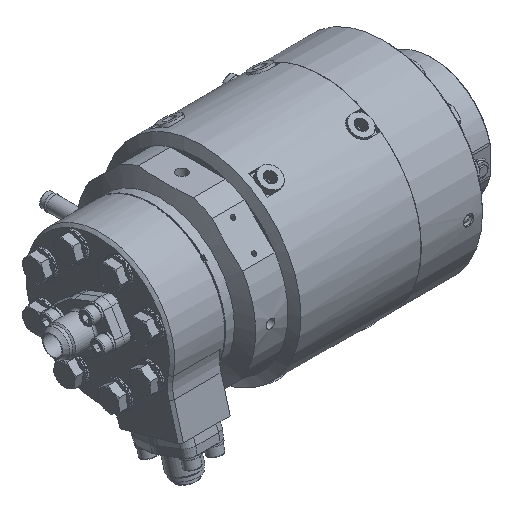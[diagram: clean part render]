
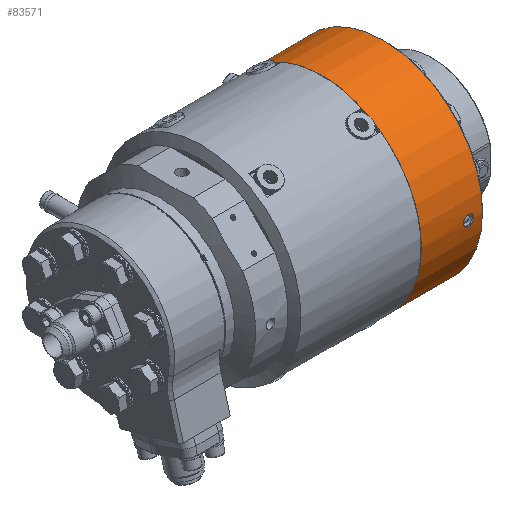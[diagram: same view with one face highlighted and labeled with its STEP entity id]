
A CAD part, isometric view. The second image highlights one B-rep face of the part: STEP entity #83571.
In plain terms, the highlighted cylindrical face has radius 114 mm (diameter 228 mm), a full revolution.
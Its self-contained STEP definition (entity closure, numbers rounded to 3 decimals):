
#1836=CYLINDRICAL_SURFACE('',#89291,114.);
#5854=B_SPLINE_CURVE_WITH_KNOTS('',3,(#135552,#135553,#135554,#135555,#135556,
#135557,#135558,#135559,#135560,#135561,#135562,#135563,#135564,#135565,
#135566,#135567,#135568,#135569),.UNSPECIFIED.,.F.,.F.,(4,2,2,2,2,2,2,2,
4),(0.904,1.13,1.356,1.582,
1.808,2.035,2.261,2.487,2.713),
 .UNSPECIFIED.);
#5855=B_SPLINE_CURVE_WITH_KNOTS('',3,(#135574,#135575,#135576,#135577,#135578,
#135579,#135580,#135581,#135582,#135583),.UNSPECIFIED.,.F.,.F.,(4,2,2,2,
4),(2.713,2.939,3.165,3.391,
3.617),.UNSPECIFIED.);
#5856=B_SPLINE_CURVE_WITH_KNOTS('',3,(#135584,#135585,#135586,#135587,#135588,
#135589,#135590,#135591,#135592,#135593),.UNSPECIFIED.,.F.,.F.,(4,2,2,2,
4),(0.,0.226,0.452,0.678,0.904),
 .UNSPECIFIED.);
#8642=FACE_OUTER_BOUND('',#13132,.T.);
#13132=EDGE_LOOP('',(#67199,#67200,#67201,#67202,#67203,#67204,#67205,#67206,
#67207,#67208,#67209,#67210,#67211));
#20191=LINE('',#135529,#28485);
#20193=LINE('',#135532,#28487);
#20200=LINE('',#135550,#28494);
#20201=LINE('',#135571,#28495);
#28485=VECTOR('',#105242,10.);
#28487=VECTOR('',#105244,10.);
#28494=VECTOR('',#105259,114.);
#28495=VECTOR('',#105260,114.);
#32548=CIRCLE('',#89284,114.);
#32549=CIRCLE('',#89285,114.);
#32551=CIRCLE('',#89290,114.);
#32552=CIRCLE('',#89292,114.);
#38131=VERTEX_POINT('',#135515);
#38132=VERTEX_POINT('',#135519);
#38133=VERTEX_POINT('',#135521);
#38134=VERTEX_POINT('',#135528);
#38135=VERTEX_POINT('',#135530);
#38142=VERTEX_POINT('',#135549);
#38143=VERTEX_POINT('',#135551);
#38144=VERTEX_POINT('',#135570);
#38145=VERTEX_POINT('',#135573);
#48286=EDGE_CURVE('',#38131,#38132,#32548,.T.);
#48287=EDGE_CURVE('',#38132,#38133,#32549,.T.);
#48290=EDGE_CURVE('',#38134,#38133,#20191,.T.);
#48292=EDGE_CURVE('',#38131,#38135,#20193,.T.);
#48299=EDGE_CURVE('',#38135,#38134,#32551,.T.);
#48300=EDGE_CURVE('',#38132,#38142,#20200,.T.);
#48301=EDGE_CURVE('',#38142,#38143,#5854,.T.);
#48302=EDGE_CURVE('',#38143,#38144,#20201,.T.);
#48303=EDGE_CURVE('',#38144,#38144,#32552,.T.);
#48304=EDGE_CURVE('',#38143,#38145,#5855,.T.);
#48305=EDGE_CURVE('',#38145,#38142,#5856,.T.);
#67199=ORIENTED_EDGE('',*,*,#48286,.F.);
#67200=ORIENTED_EDGE('',*,*,#48292,.T.);
#67201=ORIENTED_EDGE('',*,*,#48299,.T.);
#67202=ORIENTED_EDGE('',*,*,#48290,.T.);
#67203=ORIENTED_EDGE('',*,*,#48287,.F.);
#67204=ORIENTED_EDGE('',*,*,#48300,.T.);
#67205=ORIENTED_EDGE('',*,*,#48301,.T.);
#67206=ORIENTED_EDGE('',*,*,#48302,.T.);
#67207=ORIENTED_EDGE('',*,*,#48303,.T.);
#67208=ORIENTED_EDGE('',*,*,#48302,.F.);
#67209=ORIENTED_EDGE('',*,*,#48304,.T.);
#67210=ORIENTED_EDGE('',*,*,#48305,.T.);
#67211=ORIENTED_EDGE('',*,*,#48300,.F.);
#83571=ADVANCED_FACE('',(#8642),#1836,.T.);
#89284=AXIS2_PLACEMENT_3D('',#135520,#105234,#105235);
#89285=AXIS2_PLACEMENT_3D('',#135522,#105236,#105237);
#89290=AXIS2_PLACEMENT_3D('',#135547,#105255,#105256);
#89291=AXIS2_PLACEMENT_3D('',#135548,#105257,#105258);
#89292=AXIS2_PLACEMENT_3D('',#135572,#105261,#105262);
#105234=DIRECTION('center_axis',(1.,0.,0.));
#105235=DIRECTION('ref_axis',(0.,-1.,0.));
#105236=DIRECTION('center_axis',(1.,0.,0.));
#105237=DIRECTION('ref_axis',(0.,-1.,0.));
#105242=DIRECTION('',(1.,0.,0.));
#105244=DIRECTION('',(-1.,0.,0.));
#105255=DIRECTION('center_axis',(-1.,0.,0.));
#105256=DIRECTION('ref_axis',(0.,1.,0.));
#105257=DIRECTION('center_axis',(1.,0.,0.));
#105258=DIRECTION('ref_axis',(0.,1.,0.));
#105259=DIRECTION('',(-1.,0.,0.));
#105260=DIRECTION('',(-1.,0.,0.));
#105261=DIRECTION('center_axis',(1.,0.,0.));
#105262=DIRECTION('ref_axis',(0.,0.,
-1.));
#135515=CARTESIAN_POINT('',(265.3,112.,21.26));
#135519=CARTESIAN_POINT('',(265.3,-114.,0.));
#135520=CARTESIAN_POINT('Origin',(265.3,0.,0.));
#135521=CARTESIAN_POINT('',(265.3,112.,-21.26));
#135522=CARTESIAN_POINT('Origin',(265.3,0.,0.));
#135528=CARTESIAN_POINT('',(231.3,112.,-21.26));
#135529=CARTESIAN_POINT('',(231.3,112.,-21.26));
#135530=CARTESIAN_POINT('',(231.3,112.,21.26));
#135532=CARTESIAN_POINT('',(231.3,112.,21.26));
#135547=CARTESIAN_POINT('Origin',(231.3,0.,0.));
#135548=CARTESIAN_POINT('Origin',(231.3,0.,0.));
#135549=CARTESIAN_POINT('',(255.3,-114.,0.));
#135550=CARTESIAN_POINT('',(231.3,-114.,0.));
#135551=CARTESIAN_POINT('',(243.3,-114.,0.));
#135552=CARTESIAN_POINT('Ctrl Pts',(255.3,-114.,0.));
#135553=CARTESIAN_POINT('Ctrl Pts',(255.3,-114.,-0.754));
#135554=CARTESIAN_POINT('Ctrl Pts',(255.149,-113.992,
-1.557));
#135555=CARTESIAN_POINT('Ctrl Pts',(254.537,-113.962,
-3.035));
#135556=CARTESIAN_POINT('Ctrl Pts',(254.075,-113.941,
-3.71));
#135557=CARTESIAN_POINT('Ctrl Pts',(253.01,-113.901,
-4.775));
#135558=CARTESIAN_POINT('Ctrl Pts',(252.335,-113.88,-5.237));
#135559=CARTESIAN_POINT('Ctrl Pts',(250.857,-113.85,
-5.849));
#135560=CARTESIAN_POINT('Ctrl Pts',(250.054,-113.842,
-6.));
#135561=CARTESIAN_POINT('Ctrl Pts',(248.546,-113.842,
-6.));
#135562=CARTESIAN_POINT('Ctrl Pts',(247.743,-113.85,
-5.849));
#135563=CARTESIAN_POINT('Ctrl Pts',(246.265,-113.88,-5.237));
#135564=CARTESIAN_POINT('Ctrl Pts',(245.59,-113.901,
-4.775));
#135565=CARTESIAN_POINT('Ctrl Pts',(244.525,-113.941,
-3.71));
#135566=CARTESIAN_POINT('Ctrl Pts',(244.063,-113.962,
-3.035));
#135567=CARTESIAN_POINT('Ctrl Pts',(243.451,-113.992,-1.557));
#135568=CARTESIAN_POINT('Ctrl Pts',(243.3,-114.,-0.754));
#135569=CARTESIAN_POINT('Ctrl Pts',(243.3,-114.,0.));
#135570=CARTESIAN_POINT('',(195.3,-114.,0.));
#135571=CARTESIAN_POINT('',(231.3,-114.,0.));
#135572=CARTESIAN_POINT('Origin',(195.3,0.,0.));
#135573=CARTESIAN_POINT('',(249.3,-113.842,6.));
#135574=CARTESIAN_POINT('Ctrl Pts',(243.3,-114.,0.));
#135575=CARTESIAN_POINT('Ctrl Pts',(243.3,-114.,0.754));
#135576=CARTESIAN_POINT('Ctrl Pts',(243.451,-113.992,1.557));
#135577=CARTESIAN_POINT('Ctrl Pts',(244.063,-113.962,
3.035));
#135578=CARTESIAN_POINT('Ctrl Pts',(244.525,-113.941,
3.71));
#135579=CARTESIAN_POINT('Ctrl Pts',(245.59,-113.901,
4.775));
#135580=CARTESIAN_POINT('Ctrl Pts',(246.265,-113.88,5.237));
#135581=CARTESIAN_POINT('Ctrl Pts',(247.743,-113.85,
5.849));
#135582=CARTESIAN_POINT('Ctrl Pts',(248.546,-113.842,
6.));
#135583=CARTESIAN_POINT('Ctrl Pts',(249.3,-113.842,6.));
#135584=CARTESIAN_POINT('Ctrl Pts',(249.3,-113.842,6.));
#135585=CARTESIAN_POINT('Ctrl Pts',(250.054,-113.842,
6.));
#135586=CARTESIAN_POINT('Ctrl Pts',(250.857,-113.85,
5.849));
#135587=CARTESIAN_POINT('Ctrl Pts',(252.335,-113.88,5.237));
#135588=CARTESIAN_POINT('Ctrl Pts',(253.01,-113.901,
4.775));
#135589=CARTESIAN_POINT('Ctrl Pts',(254.075,-113.941,
3.71));
#135590=CARTESIAN_POINT('Ctrl Pts',(254.537,-113.962,
3.035));
#135591=CARTESIAN_POINT('Ctrl Pts',(255.149,-113.992,
1.557));
#135592=CARTESIAN_POINT('Ctrl Pts',(255.3,-114.,0.754));
#135593=CARTESIAN_POINT('Ctrl Pts',(255.3,-114.,0.));
